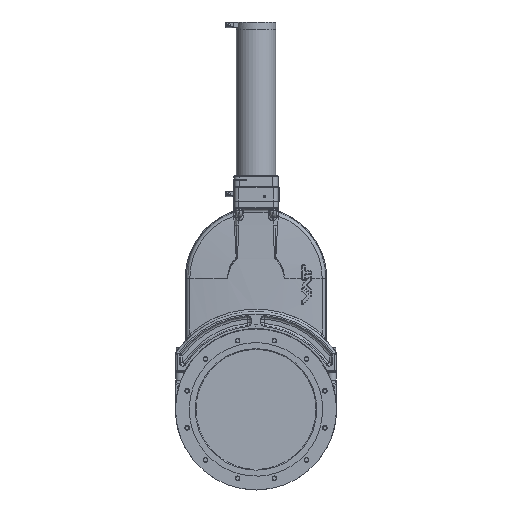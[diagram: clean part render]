
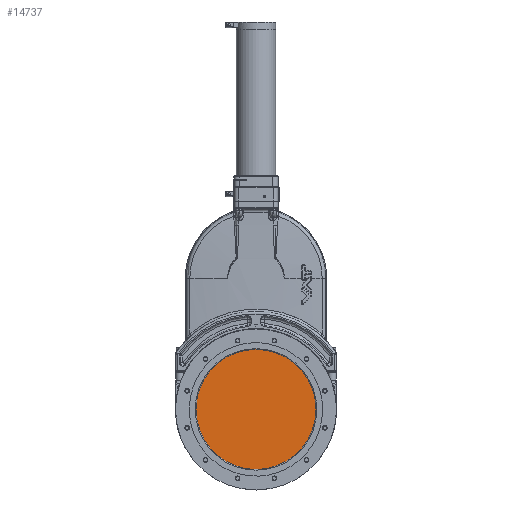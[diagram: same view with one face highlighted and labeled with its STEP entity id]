
A CAD part, top view. The second image highlights one B-rep face of the part: STEP entity #14737.
In plain terms, the highlighted planar face has unit normal (0, 0, 1).
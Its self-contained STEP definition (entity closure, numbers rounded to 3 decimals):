
#8135=FACE_OUTER_BOUND('',#18213,.T.);
#12601=PLANE('',#38037);
#14737=ADVANCED_FACE('',(#8135),#12601,.T.);
#18213=EDGE_LOOP('',(#21768));
#21768=ORIENTED_EDGE('',*,*,#32206,.T.);
#29194=VERTEX_POINT('',#52713);
#32206=EDGE_CURVE('',#29194,#29194,#36153,.T.);
#36153=CIRCLE('',#37747,130.575);
#37747=AXIS2_PLACEMENT_3D('',#52712,#41406,#41407);
#38037=AXIS2_PLACEMENT_3D('',#53711,#42054,#42055);
#41406=DIRECTION('',(0.,0.,1.));
#41407=DIRECTION('',(1.,0.,0.));
#42054=DIRECTION('',(0.,0.,1.));
#42055=DIRECTION('',(1.,0.,0.));
#52712=CARTESIAN_POINT('',(0.,0.,17.3));
#52713=CARTESIAN_POINT('',(130.575,0.,17.3));
#53711=CARTESIAN_POINT('',(0.,0.,17.3));
